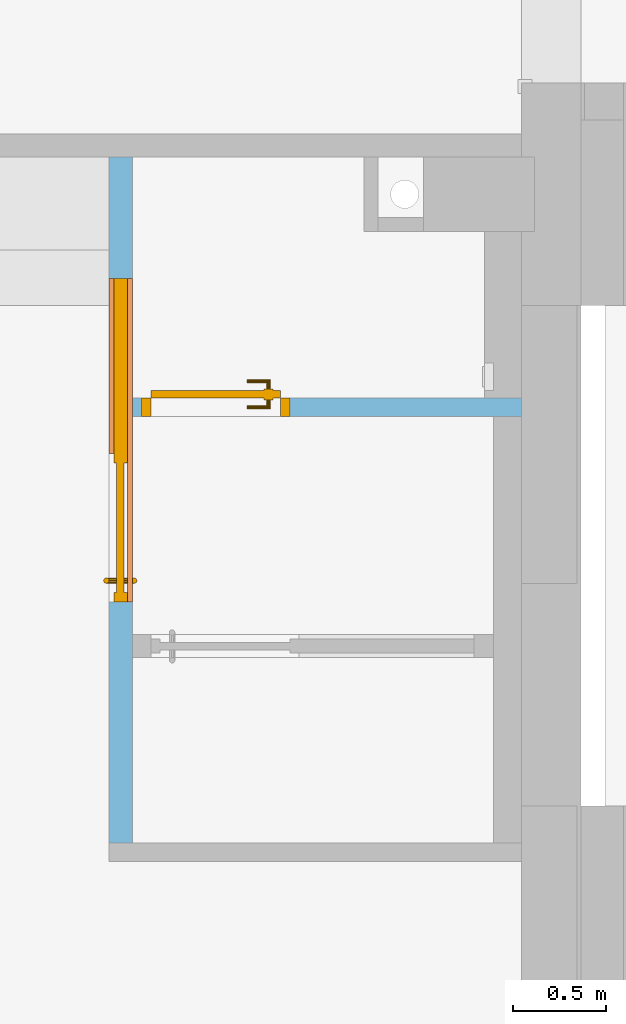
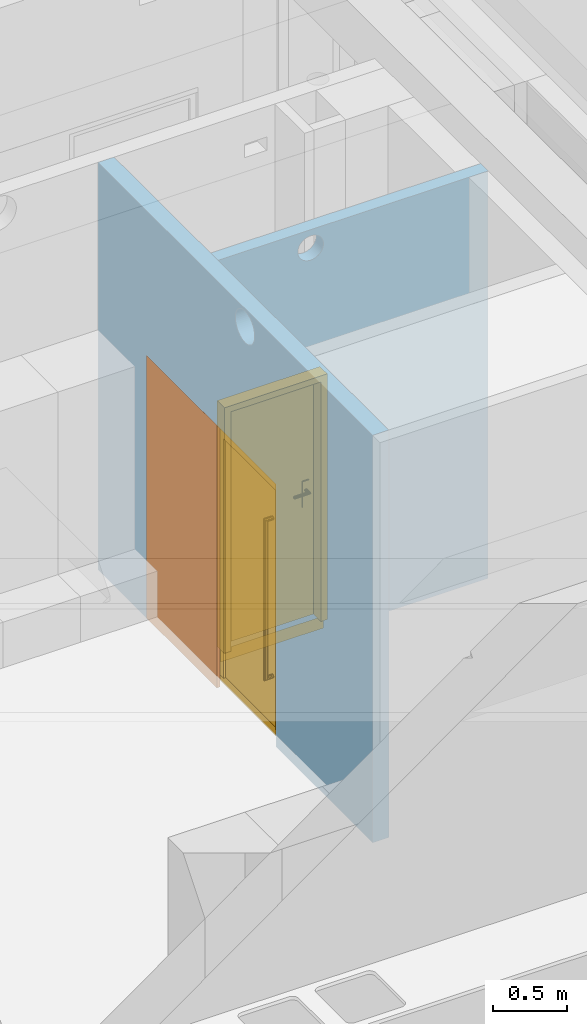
# One storey, part 101 of 140: 2 doors, 1 proxy, 4 openings, plus 2 elements that do not belong to this part.
"""IFC4 building model written with IfcOpenShell, lengths in metres."""

import ifcopenshell
import ifcopenshell.guid

model = None  # the IFC model being written
_history = None  # IfcOwnerHistory: only IFC2X3 demands one
_inside = {}  # id of a spatial element -> (the spatial element, [elements in it])
_under = {}  # id of a project, library or spatial element -> (it, [spatial elements below it])
_declared = {}  # id of a project -> (the project, [libraries it declares])
_typed = {}  # id of a type object -> (the type object, [elements of that type])
_made_of = {}  # id of a material, layer set ... -> (it, [elements and type objects made of it])


def new_model(schema):
    """Start an empty IFC model of exactly this schema.

    Asked for "IFC4X3", IfcOpenShell would pick the latest addendum, in which some entities
    have other attributes; the version numbers below select the first issue.
    IFC2X3 requires an IfcOwnerHistory on every rooted entity: one is made here for all.
    """
    global model, _history
    if schema == "IFC4X3":
        model = ifcopenshell.file(schema_version=(4, 3, 0, 0))
    else:
        model = ifcopenshell.file(schema=schema)
    _inside.clear()
    _under.clear()
    _declared.clear()
    _typed.clear()
    _made_of.clear()
    _history = None
    if model.schema == "IFC2X3":
        org = make("IfcOrganization", Name="unknown")
        user = make(
            "IfcPersonAndOrganization",
            ThePerson=make("IfcPerson", FamilyName="unknown"),
            TheOrganization=org,
        )
        app = make(
            "IfcApplication",
            ApplicationDeveloper=org,
            Version="unknown",
            ApplicationFullName="unknown",
            ApplicationIdentifier="unknown",
        )
        _history = make(
            "IfcOwnerHistory",
            OwningUser=user,
            OwningApplication=app,
            ChangeAction="ADDED",
            CreationDate=0,
        )
    return model


def make(cls, **values):
    """One entity of the class cls with the attributes given. An attribute that is None is left unset."""
    return model.create_entity(
        cls, **{name: value for name, value in values.items() if value is not None}
    )


def entity(cls, *values):
    """Any entity or typed value of the class cls, its attributes in the order of the schema. None: left unset."""
    e = model.create_entity(cls)
    for i, value in enumerate(values):
        if value is not None:
            e[i] = value
    return e


def rooted(cls, **values):
    """An entity with a GlobalId (a new one), such as an element, a storey or a relation."""
    return make(cls, GlobalId=ifcopenshell.guid.new(), OwnerHistory=_history, **values)


def si_unit(unit_type, name, prefix=None):
    """IfcSIUnit, for example si_unit("LENGTHUNIT", "METRE", prefix="MILLI")."""
    return make("IfcSIUnit", UnitType=unit_type, Prefix=prefix, Name=name)


def converted_unit(unit_type, name, factor, base, dimensions=None, offset=None):
    """IfcConversionBasedUnit, such as the inch: factor (a typed value) times the base unit."""
    return make(
        "IfcConversionBasedUnit"
        if offset is None
        else "IfcConversionBasedUnitWithOffset",
        ConversionOffset=offset,
        Dimensions=None
        if dimensions is None
        else entity("IfcDimensionalExponents", *dimensions),
        UnitType=unit_type,
        Name=name,
        ConversionFactor=make(
            "IfcMeasureWithUnit", ValueComponent=factor, UnitComponent=base
        ),
    )


def derived_unit(unit_type, elements):
    """IfcDerivedUnit: a product of units, each with its exponent."""
    return make(
        "IfcDerivedUnit",
        Elements=[
            make("IfcDerivedUnitElement", Unit=unit, Exponent=power)
            for unit, power in elements
        ],
        UnitType=unit_type,
    )


def assignment(units):
    """IfcUnitAssignment: the units of a project."""
    return None if units is None else make("IfcUnitAssignment", Units=units)


def point(xyz):
    """IfcCartesianPoint."""
    return None if xyz is None else make("IfcCartesianPoint", Coordinates=xyz)


def direction(xyz):
    """IfcDirection."""
    return None if xyz is None else make("IfcDirection", DirectionRatios=xyz)


def frame(location, z_axis=None, x_axis=None):
    """IfcAxis2Placement3D, a coordinate frame: its origin and axes. An axis left out is left unset."""
    return make(
        "IfcAxis2Placement3D",
        Location=point(location),
        Axis=direction(z_axis),
        RefDirection=direction(x_axis),
    )


def frame_2d(location, x_axis=None):
    """IfcAxis2Placement2D, a coordinate frame in the plane: its origin and x axis."""
    return make(
        "IfcAxis2Placement2D", Location=point(location), RefDirection=direction(x_axis)
    )


def origin():
    """The frame at (0, 0, 0) with its axes left unset."""
    return frame((0.0, 0.0, 0.0))


def origin_with_axes():
    """The frame at (0, 0, 0) with the z axis (0, 0, 1) and the x axis (1, 0, 0) written out."""
    return frame((0.0, 0.0, 0.0), z_axis=(0.0, 0.0, 1.0), x_axis=(1.0, 0.0, 0.0))


def place(relative_to, where):
    """IfcLocalPlacement: puts the frame where relative to a parent placement (None: the world)."""
    return make(
        "IfcLocalPlacement", PlacementRelTo=relative_to, RelativePlacement=where
    )


def context(
    kind, dimensions, precision=None, world=None, true_north=None, identifier=None
):
    """IfcGeometricRepresentationContext, for example the 3D "Model" context."""
    return make(
        "IfcGeometricRepresentationContext",
        ContextIdentifier=identifier,
        ContextType=kind,
        CoordinateSpaceDimension=dimensions,
        Precision=precision,
        WorldCoordinateSystem=world,
        TrueNorth=true_north,
    )


def subcontext(parent, identifier, kind, view, scale=None):
    """IfcGeometricRepresentationSubContext, for example "Body" below "Model"."""
    return make(
        "IfcGeometricRepresentationSubContext",
        ContextIdentifier=identifier,
        ContextType=kind,
        ParentContext=parent,
        TargetScale=scale,
        TargetView=view,
    )


def project(units=None, contexts=None):
    """IfcProject with its units and contexts."""
    return rooted(
        "IfcProject",
        Name="project",
        RepresentationContexts=contexts,
        UnitsInContext=assignment(units),
    )


def spatial(cls, under=None, at=None, **own):
    """A site, building, storey or space (cls), placed at a placement, below another one or the project."""
    s = rooted(cls, ObjectPlacement=at, **own)
    if under is not None:
        _under.setdefault(under.id(), (under, []))[1].append(s)
    return s


def polyline(points):
    """IfcPolyline through the points."""
    return make("IfcPolyline", Points=[point(p) for p in points])


def profile(cls, at=None, kind="AREA", **sizes):
    """A parametric profile (cls). Its sizes go by their IFC names, for example OverallWidth=200.0."""
    return make(cls, ProfileType=kind, Position=at, **sizes)


def rectangle(**sizes):
    """IfcRectangleProfileDef."""
    return profile("IfcRectangleProfileDef", **sizes)


def outline(outer, holes=None, kind="AREA"):
    """IfcArbitraryClosedProfileDef: a profile drawn as a closed curve; with holes, ...WithVoids."""
    if holes is None:
        return make("IfcArbitraryClosedProfileDef", ProfileType=kind, OuterCurve=outer)
    return make(
        "IfcArbitraryProfileDefWithVoids",
        ProfileType=kind,
        OuterCurve=outer,
        InnerCurves=holes,
    )


def extrude(swept, where, along, depth):
    """IfcExtrudedAreaSolid: the profile swept, set in the frame where, extruded along a direction by depth."""
    return make(
        "IfcExtrudedAreaSolid",
        SweptArea=swept,
        Position=where,
        ExtrudedDirection=direction(along),
        Depth=depth,
    )


def faces_of(points, faces, orient=None, outer=None):
    """IfcFace entities. A face is a list of loops; a loop is a list of indices into points, from 0.

    orient and outer hold one flag for each loop. By default every Orientation is true, the
    first loop of a face is its IfcFaceOuterBound and the others are IfcFaceBound.
    """
    made = []
    for i, loops in enumerate(faces):
        bounds = []
        for j, loop in enumerate(loops):
            is_outer = j == 0 if outer is None else outer[i][j]
            bounds.append(
                make(
                    "IfcFaceOuterBound" if is_outer else "IfcFaceBound",
                    Bound=make("IfcPolyLoop", Polygon=[points[k] for k in loop]),
                    Orientation=True if orient is None else orient[i][j],
                )
            )
        made.append(make("IfcFace", Bounds=bounds))
    return made


def closed_shell(faces, orient=None, outer=None):
    """The faces of one IfcClosedShell. faceted_brep and surface_model build it on their shared points."""
    return ("IfcClosedShell", faces, orient, outer)


def open_shell(faces, orient=None, outer=None):
    """The faces of one IfcOpenShell. surface_model builds it on its shared points."""
    return ("IfcOpenShell", faces, orient, outer)


def faceted_brep(points, faces, orient=None, outer=None, voids=None):
    """IfcFacetedBrep: a solid bounded by flat faces; with voids (closed shells), ...WithVoids."""
    shared = [point(p) for p in points]
    hull = make("IfcClosedShell", CfsFaces=faces_of(shared, faces, orient, outer))
    if voids is None:
        return make("IfcFacetedBrep", Outer=hull)
    return make(
        "IfcFacetedBrepWithVoids",
        Outer=hull,
        Voids=[
            make(cls, CfsFaces=faces_of(shared, fs, o, b)) for cls, fs, o, b in voids
        ],
    )


def surface_model(cls, points, shells):
    """IfcFaceBasedSurfaceModel or IfcShellBasedSurfaceModel (cls): surfaces that need not close."""
    shared = [point(p) for p in points]
    made = [make(c, CfsFaces=faces_of(shared, fs, o, b)) for c, fs, o, b in shells]
    if cls == "IfcFaceBasedSurfaceModel":
        return make(cls, FbsmFaces=made)
    return make(cls, SbsmBoundary=made)


def shape(context_of_items, identifier, shape_type, items):
    """IfcShapeRepresentation: the items that make up one representation, for example the "Body"."""
    return make(
        "IfcShapeRepresentation",
        ContextOfItems=context_of_items,
        RepresentationIdentifier=identifier,
        RepresentationType=shape_type,
        Items=items,
    )


def source(mapping_origin, context_of_items, identifier, shape_type, items):
    """IfcRepresentationMap: a shape defined once, which mapped items show again and again."""
    return make(
        "IfcRepresentationMap",
        MappingOrigin=mapping_origin,
        MappedRepresentation=shape(context_of_items, identifier, shape_type, items),
    )


def transform(
    local_origin,
    x_axis=None,
    y_axis=None,
    z_axis=None,
    scale=None,
    scale2=None,
    scale3=None,
    uniform=True,
):
    """IfcCartesianTransformationOperator3D, or its non-uniform kind. x_axis, y_axis, z_axis: its Axis1, 2, 3."""
    if uniform:
        return make(
            "IfcCartesianTransformationOperator3D",
            Axis1=direction(x_axis),
            Axis2=direction(y_axis),
            LocalOrigin=point(local_origin),
            Scale=scale,
            Axis3=direction(z_axis),
        )
    return make(
        "IfcCartesianTransformationOperator3DnonUniform",
        Axis1=direction(x_axis),
        Axis2=direction(y_axis),
        LocalOrigin=point(local_origin),
        Scale=scale,
        Axis3=direction(z_axis),
        Scale2=scale2,
        Scale3=scale3,
    )


def mapped(mapping_source, mapping_target):
    """IfcMappedItem: shows the shape of a source again, moved by a transform."""
    return make(
        "IfcMappedItem", MappingSource=mapping_source, MappingTarget=mapping_target
    )


def material(Name=None, Category=None):
    """IfcMaterial."""
    return make("IfcMaterial", Name=Name, Category=Category)


def layer(
    of_material, thickness, ventilated=None, Name=None, Category=None, Priority=None
):
    """IfcMaterialLayer: one layer of a wall or slab, of a material (None: an air gap)."""
    return make(
        "IfcMaterialLayer",
        Material=of_material,
        LayerThickness=thickness,
        IsVentilated=ventilated,
        Name=Name,
        Category=Category,
        Priority=Priority,
    )


def layer_set(layers, Name=None):
    """IfcMaterialLayerSet."""
    return make("IfcMaterialLayerSet", MaterialLayers=layers, LayerSetName=Name)


def layer_usage(for_layer_set, set_direction, sense, offset, extent=None):
    """IfcMaterialLayerSetUsage: how a layer set lies in its element."""
    return make(
        "IfcMaterialLayerSetUsage",
        ForLayerSet=for_layer_set,
        LayerSetDirection=set_direction,
        DirectionSense=sense,
        OffsetFromReferenceLine=offset,
        ReferenceExtent=extent,
    )


def made_of(thing, what):
    """Note that an element or type object is made of a material, layer set ...; save() writes the relation."""
    if what is not None:
        _made_of.setdefault(what.id(), (what, []))[1].append(thing)
    return thing


def type_object(cls, material=None, **own):
    """A type object (cls), such as IfcWallType, which elements share."""
    return made_of(rooted(cls, **own), material)


def element(
    cls,
    number,
    at=None,
    inside=None,
    cuts=None,
    type_object=None,
    material=None,
    context=None,
    identifier="Body",
    shape_type=None,
    held_by="IfcProductDefinitionShape",
    body=None,
    shapes=None,
    **own,
):
    """One element of the class cls, such as IfcWall. Its Tag is "e" and its number.

    at: its placement. inside: the storey or other place that contains it. cuts: it is an
    opening in that element (IfcRelVoidsElement). A single representation is given by context,
    identifier, shape_type and body (its items); several are given by shapes. held_by: the class
    of the entity that holds the representations. save() writes the other relations.
    """
    e = rooted(cls, Tag="e%d" % number, ObjectPlacement=at, **own)
    if body is not None:
        shapes = [shape(context, identifier, shape_type, body)]
    if shapes is not None:
        e.Representation = make(held_by, Representations=shapes)
    if inside is not None:
        _inside.setdefault(inside.id(), (inside, []))[1].append(e)
    if cuts is not None:
        rooted(
            "IfcRelVoidsElement", RelatingBuildingElement=cuts, RelatedOpeningElement=e
        )
    if type_object is not None:
        _typed.setdefault(type_object.id(), (type_object, []))[1].append(e)
    return made_of(e, material)


def fill(opening, filler):
    """IfcRelFillsElement: the door or window that sits in an opening."""
    return rooted(
        "IfcRelFillsElement",
        RelatingOpeningElement=opening,
        RelatedBuildingElement=filler,
    )


def aggregate(whole, parts):
    """IfcRelAggregates: a whole, such as a stair, and the parts it consists of."""
    return rooted("IfcRelAggregates", RelatingObject=whole, RelatedObjects=parts)


def save(model, path):
    """Write the relations noted so far, then the file.

    IfcRelAggregates (storeys below a building ...), IfcRelContainedInSpatialStructure (elements
    in a storey), IfcRelDefinesByType, IfcRelAssociatesMaterial and IfcRelDeclares: one each for
    every whole, place, type object, material and project.
    """
    for whole, parts in _under.values():
        aggregate(whole, parts)
    for where, things in _inside.values():
        rooted(
            "IfcRelContainedInSpatialStructure",
            RelatedElements=things,
            RelatingStructure=where,
        )
    for kind, things in _typed.values():
        rooted("IfcRelDefinesByType", RelatedObjects=things, RelatingType=kind)
    for what, things in _made_of.values():
        rooted("IfcRelAssociatesMaterial", RelatedObjects=things, RelatingMaterial=what)
    for by, libraries in _declared.values():
        rooted("IfcRelDeclares", RelatingContext=by, RelatedDefinitions=libraries)
    model.write(path)


model = new_model("IFC4")

# Units and contexts
model_context = context("Model", 3, precision=1e-05, world=origin())
body_context = subcontext(model_context, "Body", "Model", "MODEL_VIEW")
ifc_project = project(units=[si_unit("LENGTHUNIT", "METRE"), si_unit("AREAUNIT", "SQUARE_METRE"), si_unit("VOLUMEUNIT", "CUBIC_METRE"), si_unit("MASSUNIT", "GRAM", prefix="KILO"), converted_unit("PLANEANGLEUNIT", "DEGREE", entity("IfcPlaneAngleMeasure", 0.0174532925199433), si_unit("PLANEANGLEUNIT", "RADIAN"), dimensions=[0, 0, 0, 0, 0, 0, 0]), derived_unit("THERMALTRANSMITTANCEUNIT", [(si_unit("POWERUNIT", "WATT"), 1), (si_unit("THERMODYNAMICTEMPERATUREUNIT", "KELVIN"), -1), (si_unit("LENGTHUNIT", "METRE"), -2)]), derived_unit("VOLUMETRICFLOWRATEUNIT", [(si_unit("LENGTHUNIT", "METRE"), 3), (converted_unit("TIMEUNIT", "hour", entity("IfcTimeMeasure", 3600.0), si_unit("TIMEUNIT", "SECOND"), dimensions=[0, 0, 1, 0, 0, 0, 0]), -1), (si_unit("LENGTHUNIT", "METRE"), -1)])], contexts=[model_context])

# Site, building, storey
site_placement = place(None, origin())
site = spatial("IfcSite", under=ifc_project, at=site_placement, Name="3. ASŘ", CompositionType="ELEMENT")
building_placement = place(site_placement, origin())
building = spatial("IfcBuilding", under=site, at=building_placement, Name="Pavilon C", CompositionType="ELEMENT")
storey_placement = place(building_placement, origin())
storey = spatial("IfcBuildingStorey", under=building, at=storey_placement, Name="Půdorys 1.NP", CompositionType="ELEMENT", Elevation=0.0)

# Wall, openings, door
ifc_material_1 = material(Name="SDK - 1 KCE + DVOJITÉ OPLÁŠTĚNÍ")
ifc_layer_1 = layer(ifc_material_1, 0.1)
ifc_layer_set_1 = layer_set([ifc_layer_1])
ifc_layer_usage_1 = layer_usage(ifc_layer_set_1, "AXIS2", "POSITIVE", 0.0)
wall_1_placement = place(storey_placement, frame((49.88, 24.1, -0.1), z_axis=(0.0, 0.0, 1.0), x_axis=(-1.0, 0.0, 0.0)))
wall_1 = element("IfcWall", 1, at=wall_1_placement, inside=storey, material=ifc_layer_usage_1, Name="SDK - 1 KCE + DVOJITÉ OPLÁŠTĚNÍ", context=body_context, shape_type="SweptSolid", body=[
    extrude(rectangle(XDim=2.1, YDim=0.1, at=frame_2d((1.05, 0.05), x_axis=(1.0, 0.0))), origin_with_axes(), (0.0, 0.0, 1.0), 3.35),
])
opening_1_placement = place(wall_1_placement, frame((1.25, 0.0, 0.0), z_axis=(0.0, 1.0, 0.0), x_axis=(0.0, 0.0, 1.0)))
opening_1 = element("IfcOpeningElement", 2, at=opening_1_placement, cuts=wall_1, Name="Dveřní otvor", ObjectType="Opening", context=body_context, shape_type="SweptSolid", body=[
    extrude(outline(polyline([(0.0, 0.8), (2.12, 0.8), (2.12, 0.0), (0.0, 0.0), (0.0, 0.8)])), origin_with_axes(), (0.0, 0.0, 1.0), 0.1),
])
opening_2_placement = place(wall_1_placement, frame((1.48, 0.1, 3.1), z_axis=(0.0, -1.0, 0.0), x_axis=(0.0, 0.0, 1.0)))
element("IfcOpeningElement", 3, at=opening_2_placement, cuts=wall_1, Name="VZT", ObjectType="Opening", context=body_context, shape_type="SweptSolid", body=[
    extrude(outline(polyline([(0.1, 0.0), (0.0895471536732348, 0.000547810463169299), (0.0792088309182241, 0.00218523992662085), (0.0690983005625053, 0.00489434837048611), (0.0593263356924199, 0.00864545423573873), (0.05, 0.0133974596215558), (0.0412214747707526, 0.0190983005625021), (0.0330869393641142, 0.025685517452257), (0.0256855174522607, 0.0330869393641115), (0.0190983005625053, 0.0412214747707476), (0.0133974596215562, 0.05), (0.00864545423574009, 0.0593263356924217), (0.00489434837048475, 0.0690983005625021), (0.00218523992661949, 0.0792088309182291), (0.000547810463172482, 0.0895471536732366), (0.0, 0.1), (0.000547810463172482, 0.110452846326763), (0.00218523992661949, 0.120791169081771), (0.00489434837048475, 0.130901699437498), (0.00864545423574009, 0.140673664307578), (0.0133974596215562, 0.15), (0.0190983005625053, 0.158778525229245), (0.0256855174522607, 0.166913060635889), (0.0330869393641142, 0.174314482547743), (0.0412214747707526, 0.180901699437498), (0.05, 0.186602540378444), (0.0593263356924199, 0.191354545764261), (0.0690983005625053, 0.195105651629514), (0.0792088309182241, 0.197814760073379), (0.0895471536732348, 0.199452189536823), (0.1, 0.2), (0.110452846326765, 0.199452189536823), (0.120791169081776, 0.197814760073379), (0.130901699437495, 0.195105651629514), (0.14067366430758, 0.191354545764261), (0.15, 0.186602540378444), (0.158778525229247, 0.180901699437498), (0.166913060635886, 0.174314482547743), (0.174314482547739, 0.166913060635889), (0.180901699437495, 0.158778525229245), (0.186602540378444, 0.15), (0.19135454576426, 0.140673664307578), (0.195105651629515, 0.130901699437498), (0.197814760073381, 0.120791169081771), (0.199452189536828, 0.110452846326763), (0.2, 0.1), (0.199452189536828, 0.0895471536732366), (0.197814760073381, 0.0792088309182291), (0.195105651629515, 0.0690983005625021), (0.19135454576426, 0.0593263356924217), (0.186602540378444, 0.05), (0.180901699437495, 0.0412214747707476), (0.174314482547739, 0.0330869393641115), (0.166913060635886, 0.025685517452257), (0.158778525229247, 0.0190983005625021), (0.15, 0.0133974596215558), (0.14067366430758, 0.00864545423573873), (0.130901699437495, 0.00489434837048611), (0.120791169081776, 0.00218523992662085), (0.110452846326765, 0.000547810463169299), (0.1, 0.0)])), origin_with_axes(), (0.0, 0.0, 1.0), 0.1),
])
door_type_1 = type_object("IfcDoorType", Name="I.D110", OperationType="NOTDEFINED", ParameterTakesPrecedence=False, PredefinedType="DOOR")
shared_shape_1 = source(origin_with_axes(), body_context, "Body", "SurfaceModel", [
    surface_model("IfcShellBasedSurfaceModel", [(0.0, 0.05, 0.0), (0.8, 0.05, 0.0), (0.8, 0.05, 0.1), (0.0, 0.05, 0.1)], [open_shell([[[0, 1, 2, 3]]], orient=[[False]])]),
    surface_model("IfcShellBasedSurfaceModel", [(0.0, 0.1, 2.12), (0.0, 0.1, 0.101), (0.05, 0.1, 0.101), (0.05, 0.1, 2.12), (0.0, 0.0, 0.101), (0.0, 2.41584530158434e-16, 2.12), (0.05, 2.41584530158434e-16, 2.12), (0.05, 0.0, 0.101)], [closed_shell([[[0, 1, 2, 3]], [[4, 5, 6, 7]], [[1, 0, 5, 4]], [[2, 1, 4, 7]], [[3, 2, 7, 6]], [[0, 3, 6, 5]]], orient=[[False], [False], [False], [False], [False], [False]])]),
    surface_model("IfcShellBasedSurfaceModel", [(0.75, 0.1, 2.12), (0.75, 0.1, 0.101), (0.8, 0.1, 0.101), (0.8, 0.1, 2.12), (0.75, 0.0, 0.101), (0.75, 2.41584530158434e-16, 2.12), (0.8, 2.41584530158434e-16, 2.12), (0.8, 0.0, 0.101)], [closed_shell([[[0, 1, 2, 3]], [[4, 5, 6, 7]], [[1, 0, 5, 4]], [[2, 1, 4, 7]], [[3, 2, 7, 6]], [[0, 3, 6, 5]]], orient=[[False], [False], [False], [False], [False], [False]])]),
    surface_model("IfcShellBasedSurfaceModel", [(0.05, 0.1, 2.12), (0.05, 0.1, 2.07), (0.75, 0.1, 2.07), (0.75, 0.1, 2.12), (0.05, 2.41584530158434e-16, 2.07), (0.05, 2.41584530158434e-16, 2.12), (0.75, 2.41584530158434e-16, 2.12), (0.75, 2.41584530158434e-16, 2.07)], [closed_shell([[[0, 1, 2, 3]], [[4, 5, 6, 7]], [[1, 0, 5, 4]], [[2, 1, 4, 7]], [[3, 2, 7, 6]], [[0, 3, 6, 5]]], orient=[[False], [False], [False], [False], [False], [False]])]),
    surface_model("IfcShellBasedSurfaceModel", [(0.05, 0.14, 2.07), (0.05, 0.14, 0.101), (0.75, 0.14, 0.101), (0.75, 0.14, 2.07), (0.05, 0.1, 0.101), (0.05, 0.1, 2.07), (0.75, 0.1, 2.07), (0.75, 0.1, 0.101)], [closed_shell([[[0, 1, 2, 3]], [[4, 5, 6, 7]], [[1, 0, 5, 4]], [[2, 1, 4, 7]], [[3, 2, 7, 6]], [[0, 3, 6, 5]]], orient=[[False], [False], [False], [False], [False], [False]])]),
    surface_model("IfcShellBasedSurfaceModel", [(0.66, 0.1, 1.226), (0.66, 0.1, 1.011), (0.71, 0.1, 1.011), (0.71, 0.1, 1.226), (0.66, 0.0900000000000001, 1.011), (0.66, 0.0900000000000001, 1.226), (0.71, 0.0900000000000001, 1.226), (0.71, 0.0900000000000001, 1.011)], [closed_shell([[[0, 1, 2, 3]], [[4, 5, 6, 7]], [[1, 0, 5, 4]], [[2, 1, 4, 7]], [[3, 2, 7, 6]], [[0, 3, 6, 5]]], orient=[[False], [False], [False], [False], [False], [False]])]),
    surface_model("IfcShellBasedSurfaceModel", [(0.685, 0.0900000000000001, 1.161), (0.68, 0.0900000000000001, 1.15966025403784), (0.676339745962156, 0.0900000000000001, 1.156), (0.675, 0.0900000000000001, 1.151), (0.676339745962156, 0.0900000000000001, 1.146), (0.68, 0.0900000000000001, 1.14233974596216), (0.685, 0.0900000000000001, 1.141), (0.69, 0.0900000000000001, 1.14233974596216), (0.693660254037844, 0.0900000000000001, 1.146), (0.695, 0.0900000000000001, 1.151), (0.693660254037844, 0.0900000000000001, 1.156), (0.69, 0.0900000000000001, 1.15966025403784), (0.69, 0.0450000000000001, 1.15966025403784), (0.685, 0.0500000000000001, 1.161), (0.693660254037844, 0.0413397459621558, 1.156), (0.695, 0.0400000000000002, 1.151), (0.693660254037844, 0.0413397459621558, 1.146), (0.69, 0.0450000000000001, 1.14233974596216), (0.685, 0.0500000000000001, 1.141), (0.68, 0.0550000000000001, 1.14233974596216), (0.676339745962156, 0.0586602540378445, 1.146), (0.675, 0.0600000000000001, 1.151), (0.676339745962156, 0.0586602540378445, 1.156), (0.68, 0.0550000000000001, 1.15966025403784), (0.57, 0.0450000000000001, 1.15966025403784), (0.57, 0.0500000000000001, 1.161), (0.57, 0.0413397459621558, 1.156), (0.57, 0.0400000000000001, 1.151), (0.57, 0.0413397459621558, 1.146), (0.57, 0.0450000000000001, 1.14233974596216), (0.57, 0.0500000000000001, 1.141), (0.57, 0.0550000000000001, 1.14233974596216), (0.57, 0.0586602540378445, 1.146), (0.57, 0.0600000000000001, 1.151), (0.57, 0.0586602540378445, 1.156), (0.57, 0.0550000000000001, 1.15966025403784)], [open_shell([[[0, 1, 2, 3, 4, 5, 6, 7, 8, 9, 10, 11]], [[0, 11, 12, 13]], [[11, 10, 14, 12]], [[10, 9, 15, 14]], [[9, 8, 16, 15]], [[8, 7, 17, 16]], [[7, 6, 18, 17]], [[6, 5, 19, 18]], [[5, 4, 20, 19]], [[4, 3, 21, 20]], [[3, 2, 22, 21]], [[2, 1, 23, 22]], [[1, 0, 13, 23]], [[13, 12, 24, 25]], [[12, 14, 26, 24]], [[14, 15, 27, 26]], [[15, 16, 28, 27]], [[16, 17, 29, 28]], [[17, 18, 30, 29]], [[18, 19, 31, 30]], [[19, 20, 32, 31]], [[20, 21, 33, 32]], [[21, 22, 34, 33]], [[22, 23, 35, 34]], [[23, 13, 25, 35]]], orient=[[False], [False], [False], [False], [False], [False], [False], [False], [False], [False], [False], [False], [False], [False], [False], [False], [False], [False], [False], [False], [False], [False], [False], [False], [False]])]),
    surface_model("IfcShellBasedSurfaceModel", [(0.66, 0.14, 1.226), (0.71, 0.14, 1.226), (0.71, 0.14, 1.011), (0.66, 0.14, 1.011), (0.66, 0.15, 1.011), (0.71, 0.15, 1.011), (0.71, 0.15, 1.226), (0.66, 0.15, 1.226)], [closed_shell([[[0, 1, 2, 3]], [[4, 5, 6, 7]], [[3, 4, 7, 0]], [[2, 5, 4, 3]], [[1, 6, 5, 2]], [[0, 7, 6, 1]]], orient=[[False], [False], [False], [False], [False], [False]])]),
    surface_model("IfcShellBasedSurfaceModel", [(0.685, 0.15, 1.161), (0.69, 0.15, 1.15966025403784), (0.693660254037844, 0.15, 1.156), (0.695, 0.15, 1.151), (0.693660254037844, 0.15, 1.146), (0.69, 0.15, 1.14233974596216), (0.685, 0.15, 1.141), (0.68, 0.15, 1.14233974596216), (0.676339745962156, 0.15, 1.146), (0.675, 0.15, 1.151), (0.676339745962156, 0.15, 1.156), (0.68, 0.15, 1.15966025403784), (0.685, 0.19, 1.161), (0.69, 0.195, 1.15966025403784), (0.693660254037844, 0.198660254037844, 1.156), (0.695, 0.2, 1.151), (0.693660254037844, 0.198660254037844, 1.146), (0.69, 0.195, 1.14233974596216), (0.685, 0.19, 1.141), (0.68, 0.185, 1.14233974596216), (0.676339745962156, 0.181339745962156, 1.146), (0.675, 0.18, 1.151), (0.676339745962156, 0.181339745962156, 1.156), (0.68, 0.185, 1.15966025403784), (0.57, 0.19, 1.161), (0.57, 0.195, 1.15966025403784), (0.57, 0.198660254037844, 1.156), (0.57, 0.2, 1.151), (0.57, 0.198660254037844, 1.146), (0.57, 0.195, 1.14233974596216), (0.57, 0.19, 1.141), (0.57, 0.185, 1.14233974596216), (0.57, 0.181339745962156, 1.146), (0.57, 0.18, 1.151), (0.57, 0.181339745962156, 1.156), (0.57, 0.185, 1.15966025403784)], [open_shell([[[0, 1, 2, 3, 4, 5, 6, 7, 8, 9, 10, 11]], [[0, 12, 13, 1]], [[1, 13, 14, 2]], [[2, 14, 15, 3]], [[3, 15, 16, 4]], [[4, 16, 17, 5]], [[5, 17, 18, 6]], [[6, 18, 19, 7]], [[7, 19, 20, 8]], [[8, 20, 21, 9]], [[9, 21, 22, 10]], [[10, 22, 23, 11]], [[11, 23, 12, 0]], [[12, 24, 25, 13]], [[13, 25, 26, 14]], [[14, 26, 27, 15]], [[15, 27, 28, 16]], [[16, 28, 29, 17]], [[17, 29, 30, 18]], [[18, 30, 31, 19]], [[19, 31, 32, 20]], [[20, 32, 33, 21]], [[21, 33, 34, 22]], [[22, 34, 35, 23]], [[23, 35, 24, 12]]], orient=[[False], [False], [False], [False], [False], [False], [False], [False], [False], [False], [False], [False], [False], [False], [False], [False], [False], [False], [False], [False], [False], [False], [False], [False], [False]])]),
])
door_1_placement = place(opening_1_placement, frame((0.0, 0.8, 0.1), z_axis=(1.0, 0.0, 0.0), x_axis=(0.0, -1.0, 2.44929359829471e-16)))
door_1 = element("IfcDoor", 4, at=door_1_placement, inside=storey, type_object=door_type_1, Name="I.D110", OverallHeight=2.12, OverallWidth=0.8, context=body_context, shape_type="MappedRepresentation", body=[
    mapped(shared_shape_1, transform((0.0, 0.0, 0.0), x_axis=(1.0, 0.0, 0.0), y_axis=(0.0, 1.0, 0.0), z_axis=(0.0, 0.0, 1.0), scale=1.0)),
])
fill(opening_1, door_1)

# Wall, openings, door, proxy
ifc_material_2 = material(Name="SDK - 1 KCE + DVOJITÉ OPLÁŠTĚNÍ")
ifc_layer_2 = layer(ifc_material_2, 0.125)
ifc_layer_set_2 = layer_set([ifc_layer_2])
ifc_layer_usage_2 = layer_usage(ifc_layer_set_2, "AXIS2", "POSITIVE", 0.0)
wall_2_placement = place(storey_placement, frame((47.78, 21.7, -0.1), z_axis=(0.0, 0.0, 1.0), x_axis=(0.0, 1.0, 0.0)))
wall_2 = element("IfcWall", 5, at=wall_2_placement, inside=storey, material=ifc_layer_usage_2, Name="SDK - 1 KCE + DVOJITÉ OPLÁŠTĚNÍ", context=body_context, shape_type="SweptSolid", body=[
    extrude(rectangle(XDim=3.7, YDim=0.125, at=frame_2d((1.85, 0.0625), x_axis=(1.0, 0.0))), origin_with_axes(), (0.0, 0.0, 1.0), 3.35),
])
opening_3_placement = place(wall_2_placement, frame((1.29999999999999, 0.0, 0.0), z_axis=(0.0, 1.0, 0.0), x_axis=(0.0, 0.0, 1.0)))
opening_3 = element("IfcOpeningElement", 6, at=opening_3_placement, cuts=wall_2, Name="Dveřní otvor", ObjectType="Opening", context=body_context, shape_type="SweptSolid", body=[
    extrude(outline(polyline([(0.0, 1.745), (2.16, 1.745), (2.16, 0.0), (0.0, 0.0), (0.0, 1.745)])), origin_with_axes(), (0.0, 0.0, 1.0), 0.125),
])
opening_4_placement = place(wall_2_placement, frame((1.58988097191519, 0.0, 3.07000000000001), z_axis=(0.0, 1.0, 0.0), x_axis=(0.0, 0.0, 1.0)))
element("IfcOpeningElement", 7, at=opening_4_placement, cuts=wall_2, Name="VZT", ObjectType="Opening", context=body_context, shape_type="SweptSolid", body=[
    extrude(outline(polyline([(0.129999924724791, 0.0), (0.116411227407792, 0.000712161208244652), (0.102971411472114, 0.00284082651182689), (0.0898277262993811, 0.00636267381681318), (0.0771241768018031, 0.0112391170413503), (0.0649999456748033, 0.0174167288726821), (0.0535878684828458, 0.0248278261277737), (0.0430129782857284, 0.0333912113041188), (0.0333911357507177, 0.0430130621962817), (0.0248277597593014, 0.0535879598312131), (0.0174166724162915, 0.0650000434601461), (0.0112390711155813, 0.0771242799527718), (0.00636263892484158, 0.0898278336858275), (0.00284080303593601, 0.102971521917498), (0.000712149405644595, 0.116411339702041), (0.0, 0.13000003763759), (0.00071215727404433, 0.143588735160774), (0.00284081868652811, 0.157028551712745), (0.00636266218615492, 0.170172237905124), (0.01123910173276, 0.182875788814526), (0.0174167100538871, 0.195000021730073), (0.024827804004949, 0.206412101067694), (0.0333911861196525, 0.216986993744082), (0.0430130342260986, 0.226608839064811), (0.0535879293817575, 0.23517221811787), (0.0650000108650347, 0.242583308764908), (0.0771242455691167, 0.248760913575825), (0.0898277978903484, 0.253637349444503), (0.10297148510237, 0.257159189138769), (0.116411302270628, 0.259287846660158), (0.129999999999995, 0.26), (0.143588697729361, 0.259287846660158), (0.157028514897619, 0.257159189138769), (0.170172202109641, 0.253637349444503), (0.182875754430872, 0.248760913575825), (0.194999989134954, 0.242583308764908), (0.206412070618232, 0.23517221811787), (0.21698696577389, 0.226608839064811), (0.226608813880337, 0.216986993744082), (0.23517219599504, 0.206412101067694), (0.242583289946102, 0.195000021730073), (0.248760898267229, 0.182875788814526), (0.253637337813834, 0.170172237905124), (0.257159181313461, 0.157028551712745), (0.259287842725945, 0.143588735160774), (0.259999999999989, 0.13000003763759), (0.259287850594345, 0.116411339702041), (0.257159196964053, 0.102971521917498), (0.253637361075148, 0.0898278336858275), (0.248760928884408, 0.0771242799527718), (0.242583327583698, 0.0650000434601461), (0.235172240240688, 0.0535879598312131), (0.226608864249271, 0.0430130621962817), (0.216987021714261, 0.0333912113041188), (0.206412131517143, 0.0248278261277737), (0.195000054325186, 0.0174167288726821), (0.182875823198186, 0.0112391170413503), (0.170172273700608, 0.00636267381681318), (0.157028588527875, 0.00284082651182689), (0.143588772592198, 0.000712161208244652), (0.129999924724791, 0.0)])), origin_with_axes(), (0.0, 0.0, 1.0), 0.125),
])
door_type_2 = type_object("IfcDoorType", Name="I.DP02", OperationType="NOTDEFINED", ParameterTakesPrecedence=False, PredefinedType="DOOR")
shared_shape_2 = source(origin_with_axes(), body_context, "Body", "SurfaceModel", [
    surface_model("IfcShellBasedSurfaceModel", [(0.0, 0.0924999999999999, 0.0), (1.745, 0.0924999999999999, 0.0), (1.745, 0.0924999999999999, 0.1), (0.0, 0.0924999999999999, 0.1)], [open_shell([[[0, 1, 2, 3]]], orient=[[False]])]),
    surface_model("IfcShellBasedSurfaceModel", [(0.0, 0.13, 2.16), (0.0, 0.13, 0.101), (0.995, 0.13, 0.101), (0.995, 0.13, 2.16), (0.0, 0.0549999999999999, 0.101), (0.0, 0.0550000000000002, 2.16), (0.995, 0.0550000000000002, 2.16), (0.995, 0.0549999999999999, 0.101)], [closed_shell([[[0, 1, 2, 3]], [[4, 5, 6, 7]], [[1, 0, 5, 4]], [[2, 1, 4, 7]], [[3, 2, 7, 6]], [[0, 3, 6, 5]]], orient=[[False], [False], [False], [False], [False], [False]])]),
    surface_model("IfcShellBasedSurfaceModel", [(1.695, 0.13, 2.16), (1.695, 0.13, 0.101), (1.745, 0.13, 0.101), (1.745, 0.13, 2.16), (1.695, 0.0549999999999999, 0.101), (1.695, 0.0550000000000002, 2.16), (1.745, 0.0550000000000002, 2.16), (1.745, 0.0549999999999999, 0.101)], [closed_shell([[[0, 1, 2, 3]], [[4, 5, 6, 7]], [[1, 0, 5, 4]], [[2, 1, 4, 7]], [[3, 2, 7, 6]], [[0, 3, 6, 5]]], orient=[[False], [False], [False], [False], [False], [False]])]),
    surface_model("IfcShellBasedSurfaceModel", [(0.995, 0.13, 2.16), (0.995, 0.13, 2.07), (1.695, 0.13, 2.07), (1.695, 0.13, 2.16), (0.995, 0.0550000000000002, 2.07), (0.995, 0.0550000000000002, 2.16), (1.695, 0.0550000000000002, 2.16), (1.695, 0.0550000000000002, 2.07)], [closed_shell([[[0, 1, 2, 3]], [[4, 5, 6, 7]], [[1, 0, 5, 4]], [[2, 1, 4, 7]], [[3, 2, 7, 6]], [[0, 3, 6, 5]]], orient=[[False], [False], [False], [False], [False], [False]])]),
    surface_model("IfcShellBasedSurfaceModel", [(0.995, 0.11, 2.07), (0.995, 0.11, 0.101), (1.695, 0.11, 0.101), (1.695, 0.11, 2.07), (0.995, 0.0699999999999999, 0.101), (0.995, 0.0700000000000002, 2.07), (1.695, 0.0700000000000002, 2.07), (1.695, 0.0699999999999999, 0.101)], [closed_shell([[[0, 1, 2, 3]], [[4, 5, 6, 7]], [[1, 0, 5, 4]], [[2, 1, 4, 7]], [[3, 2, 7, 6]], [[0, 3, 6, 5]]], orient=[[False], [False], [False], [False], [False], [False]])]),
    surface_model("IfcShellBasedSurfaceModel", [(1.645, 0.0700000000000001, 1.801), (1.64299038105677, 0.0700000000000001, 1.8085), (1.6375, 0.0700000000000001, 1.81399038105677), (1.63, 0.0700000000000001, 1.816), (1.6225, 0.0700000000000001, 1.81399038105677), (1.61700961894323, 0.0700000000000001, 1.8085), (1.615, 0.0700000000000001, 1.801), (1.61700961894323, 0.0700000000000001, 1.7935), (1.6225, 0.0700000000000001, 1.78800961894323), (1.63, 0.0700000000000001, 1.786), (1.6375, 0.0700000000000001, 1.78800961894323), (1.64299038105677, 0.0700000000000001, 1.7935), (1.645, 0.0150000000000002, 1.801), (1.64299038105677, 0.00750000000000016, 1.8085), (1.6375, 0.00200961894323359, 1.81399038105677), (1.63, 1.70530256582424e-16, 1.816), (1.6225, 0.00200961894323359, 1.81399038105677), (1.61700961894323, 0.00750000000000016, 1.8085), (1.615, 0.0150000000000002, 1.801), (1.61700961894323, 0.0225000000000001, 1.7935), (1.6225, 0.0279903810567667, 1.78800961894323), (1.63, 0.0300000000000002, 1.786), (1.6375, 0.0279903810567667, 1.78800961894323), (1.64299038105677, 0.0225000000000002, 1.7935), (1.645, 0.015, 0.501), (1.64299038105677, 0.00749999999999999, 0.4935), (1.6375, 0.00200961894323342, 0.488009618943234), (1.63, 0.0, 0.486), (1.6225, 0.00200961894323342, 0.488009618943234), (1.61700961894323, 0.00749999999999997, 0.4935), (1.615, 0.015, 0.501), (1.61700961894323, 0.0225, 0.5085), (1.6225, 0.0279903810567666, 0.513990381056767), (1.63, 0.03, 0.516), (1.6375, 0.0279903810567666, 0.513990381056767), (1.64299038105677, 0.0225, 0.5085), (1.645, 0.07, 0.501), (1.64299038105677, 0.07, 0.4935), (1.6375, 0.07, 0.488009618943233), (1.63, 0.07, 0.486), (1.6225, 0.07, 0.488009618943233), (1.61700961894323, 0.07, 0.4935), (1.615, 0.07, 0.501), (1.61700961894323, 0.07, 0.5085), (1.6225, 0.07, 0.513990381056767), (1.63, 0.07, 0.516), (1.6375, 0.07, 0.513990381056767), (1.64299038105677, 0.07, 0.5085)], [open_shell([[[0, 1, 2, 3, 4, 5, 6, 7, 8, 9, 10, 11]], [[0, 12, 13, 1]], [[1, 13, 14, 2]], [[2, 14, 15, 3]], [[3, 15, 16, 4]], [[4, 16, 17, 5]], [[5, 17, 18, 6]], [[6, 18, 19, 7]], [[7, 19, 20, 8]], [[8, 20, 21, 9]], [[9, 21, 22, 10]], [[10, 22, 23, 11]], [[11, 23, 12, 0]], [[12, 24, 25, 13]], [[13, 25, 26, 14]], [[14, 26, 27, 15]], [[15, 27, 28, 16]], [[16, 28, 29, 17]], [[17, 29, 30, 18]], [[18, 30, 31, 19]], [[19, 31, 32, 20]], [[20, 32, 33, 21]], [[21, 33, 34, 22]], [[22, 34, 35, 23]], [[23, 35, 24, 12]], [[24, 36, 37, 25]], [[25, 37, 38, 26]], [[26, 38, 39, 27]], [[27, 39, 40, 28]], [[28, 40, 41, 29]], [[29, 41, 42, 30]], [[30, 42, 43, 31]], [[31, 43, 44, 32]], [[32, 44, 45, 33]], [[33, 45, 46, 34]], [[34, 46, 47, 35]], [[35, 47, 36, 24]]], orient=[[False], [False], [False], [False], [False], [False], [False], [False], [False], [False], [False], [False], [False], [False], [False], [False], [False], [False], [False], [False], [False], [False], [False], [False], [False], [False], [False], [False], [False], [False], [False], [False], [False], [False], [False], [False], [False]])]),
    surface_model("IfcShellBasedSurfaceModel", [(1.645, 0.11, 1.801), (1.64299038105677, 0.11, 1.7935), (1.6375, 0.11, 1.78800961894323), (1.63, 0.11, 1.786), (1.6225, 0.11, 1.78800961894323), (1.61700961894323, 0.11, 1.7935), (1.615, 0.11, 1.801), (1.61700961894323, 0.11, 1.8085), (1.6225, 0.11, 1.81399038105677), (1.63, 0.11, 1.816), (1.6375, 0.11, 1.81399038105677), (1.64299038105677, 0.11, 1.8085), (1.64299038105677, 0.1725, 1.8085), (1.645, 0.165, 1.801), (1.6375, 0.177990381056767, 1.81399038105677), (1.63, 0.18, 1.816), (1.6225, 0.177990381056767, 1.81399038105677), (1.61700961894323, 0.1725, 1.8085), (1.615, 0.165, 1.801), (1.61700961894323, 0.1575, 1.7935), (1.6225, 0.152009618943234, 1.78800961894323), (1.63, 0.15, 1.786), (1.6375, 0.152009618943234, 1.78800961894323), (1.64299038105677, 0.1575, 1.7935), (1.64299038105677, 0.1725, 0.4935), (1.645, 0.165, 0.501), (1.6375, 0.177990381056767, 0.488009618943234), (1.63, 0.18, 0.486), (1.6225, 0.177990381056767, 0.488009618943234), (1.61700961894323, 0.1725, 0.4935), (1.615, 0.165, 0.501), (1.61700961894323, 0.1575, 0.5085), (1.6225, 0.152009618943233, 0.513990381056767), (1.63, 0.15, 0.516), (1.6375, 0.152009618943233, 0.513990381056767), (1.64299038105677, 0.1575, 0.5085), (1.64299038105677, 0.11, 0.4935), (1.645, 0.11, 0.501), (1.6375, 0.11, 0.488009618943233), (1.63, 0.11, 0.486), (1.6225, 0.11, 0.488009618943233), (1.61700961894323, 0.11, 0.4935), (1.615, 0.11, 0.501), (1.61700961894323, 0.11, 0.5085), (1.6225, 0.11, 0.513990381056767), (1.63, 0.11, 0.516), (1.6375, 0.11, 0.513990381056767), (1.64299038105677, 0.11, 0.5085)], [open_shell([[[0, 1, 2, 3, 4, 5, 6, 7, 8, 9, 10, 11]], [[0, 11, 12, 13]], [[11, 10, 14, 12]], [[10, 9, 15, 14]], [[9, 8, 16, 15]], [[8, 7, 17, 16]], [[7, 6, 18, 17]], [[6, 5, 19, 18]], [[5, 4, 20, 19]], [[4, 3, 21, 20]], [[3, 2, 22, 21]], [[2, 1, 23, 22]], [[1, 0, 13, 23]], [[13, 12, 24, 25]], [[12, 14, 26, 24]], [[14, 15, 27, 26]], [[15, 16, 28, 27]], [[16, 17, 29, 28]], [[17, 18, 30, 29]], [[18, 19, 31, 30]], [[19, 20, 32, 31]], [[20, 21, 33, 32]], [[21, 22, 34, 33]], [[22, 23, 35, 34]], [[23, 13, 25, 35]], [[25, 24, 36, 37]], [[24, 26, 38, 36]], [[26, 27, 39, 38]], [[27, 28, 40, 39]], [[28, 29, 41, 40]], [[29, 30, 42, 41]], [[30, 31, 43, 42]], [[31, 32, 44, 43]], [[32, 33, 45, 44]], [[33, 34, 46, 45]], [[34, 35, 47, 46]], [[35, 25, 37, 47]]], orient=[[False], [False], [False], [False], [False], [False], [False], [False], [False], [False], [False], [False], [False], [False], [False], [False], [False], [False], [False], [False], [False], [False], [False], [False], [False], [False], [False], [False], [False], [False], [False], [False], [False], [False], [False], [False], [False]])]),
])
door_2_placement = place(opening_3_placement, frame((0.0, 1.74499999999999, 0.155000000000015), z_axis=(1.0, 0.0, 0.0), x_axis=(0.0, -1.0, 2.44929359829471e-16)))
door_2 = element("IfcDoor", 8, at=door_2_placement, inside=storey, type_object=door_type_2, Name="I.DP02", OverallHeight=2.16, OverallWidth=1.745, context=body_context, shape_type="MappedRepresentation", body=[
    mapped(shared_shape_2, transform((0.0, 0.0, 0.0), x_axis=(1.0, 0.0, 0.0), y_axis=(0.0, 1.0, 0.0), z_axis=(0.0, 0.0, 1.0), scale=1.0)),
])
fill(opening_3, door_2)
ifc_material_3 = material(Name="SDK - 1 KCE + DVOJITÉ OPLÁŠTĚNÍ")
proxy_placement = place(opening_3_placement, frame((0.0, 0.0, 0.125000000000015)))
proxy = element("IfcBuildingElementProxy", 9, at=proxy_placement, inside=storey, material=ifc_material_3, context=body_context, shape_type="Brep", body=[
    faceted_brep([(0.0, 1.745, -1.45519152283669e-14), (0.0, 0.8, -1.45519152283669e-14), (0.0, 0.8, -0.0250000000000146), (0.0, 1.745, -0.0250000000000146), (2.16, 1.745, -0.0250000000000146), (2.16, 1.745, -1.45519152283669e-14), (2.16, 0.8, -1.45519152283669e-14), (2.16, 0.8, -0.0250000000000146), (0.0, 1.745, -0.100000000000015), (0.0, 1.745, -0.125000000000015), (2.16, 1.745, -0.125000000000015), (2.16, 1.745, -0.100000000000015), (2.16, 1.13686837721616e-16, -0.125), (2.16, 7.38964445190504e-15, -0.1), (0.0, 0.8, -0.125000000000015), (0.0, 0.8, -0.100000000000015), (2.12, 7.38964445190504e-15, -0.1), (2.12, 0.8, -0.100000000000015), (2.12, 0.8, -0.125000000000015), (2.12, 1.13686837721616e-16, -0.125)], [[[0, 1, 2, 3]], [[0, 3, 4, 5]], [[2, 1, 6, 7]], [[4, 3, 2, 7]], [[4, 7, 6, 5]], [[6, 1, 0, 5]], [[8, 9, 10, 11]], [[10, 12, 13, 11]], [[14, 9, 8, 15]], [[15, 8, 11, 13, 16, 17]], [[9, 14, 18, 19, 12, 10]], [[14, 15, 17, 18]], [[19, 16, 13, 12]], [[16, 19, 18, 17]]], orient=[[False], [False], [False], [False], [False], [False], [False], [False], [False], [False], [False], [False], [False], [False]]),
])
fill(opening_3, proxy)

save(model, "model.ifc")
